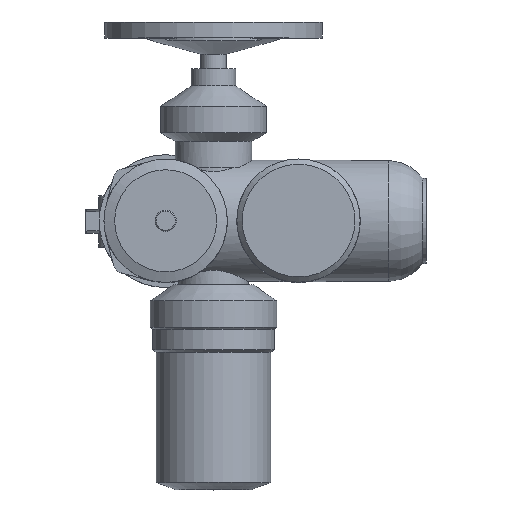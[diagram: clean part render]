
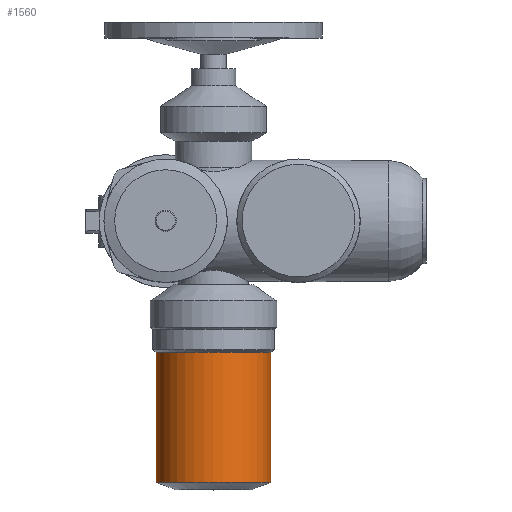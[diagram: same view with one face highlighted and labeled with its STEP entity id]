
A CAD part, top view. The second image highlights one B-rep face of the part: STEP entity #1560.
In plain terms, the highlighted cylindrical face has radius 54 mm (diameter 108 mm), a full revolution.
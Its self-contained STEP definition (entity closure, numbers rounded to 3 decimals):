
#1560=ADVANCED_FACE('',(#3520,#3522),#3524,.T.);
#3520=FACE_OUTER_BOUND('',#3521,.T.);
#3521=EDGE_LOOP('',(#4924));
#3522=FACE_OUTER_BOUND('',#3523,.T.);
#3523=EDGE_LOOP('',(#4925));
#3524=CYLINDRICAL_SURFACE('',#3525,54.);
#3525=AXIS2_PLACEMENT_3D('',#3526,#3527,#3528);
#3526=CARTESIAN_POINT('',(45.,-246.085,330.));
#3527=DIRECTION('',(0.,1.,0.));
#3528=DIRECTION('',(0.,0.,1.));
#4924=ORIENTED_EDGE('',*,*,#5669,.F.);
#4925=ORIENTED_EDGE('',*,*,#5747,.T.);
#5669=EDGE_CURVE('',#6524,#6524,#6525,.T.);
#5747=EDGE_CURVE('',#6648,#6648,#6649,.T.);
#6524=VERTEX_POINT('',#9439);
#6525=CIRCLE('',#9440,54.);
#6648=VERTEX_POINT('',#9735);
#6649=CIRCLE('',#9736,54.);
#9439=CARTESIAN_POINT('',(45.,-123.505,384.));
#9440=AXIS2_PLACEMENT_3D('',#9441,#9442,#9443);
#9441=CARTESIAN_POINT('',(45.,-123.505,330.));
#9442=DIRECTION('',(0.,1.,0.));
#9443=DIRECTION('',(0.,0.,1.));
#9735=CARTESIAN_POINT('',(45.,-246.085,384.));
#9736=AXIS2_PLACEMENT_3D('',#9737,#9738,#9739);
#9737=CARTESIAN_POINT('',(45.,-246.085,330.));
#9738=DIRECTION('',(0.,1.,0.));
#9739=DIRECTION('',(0.,0.,1.));
